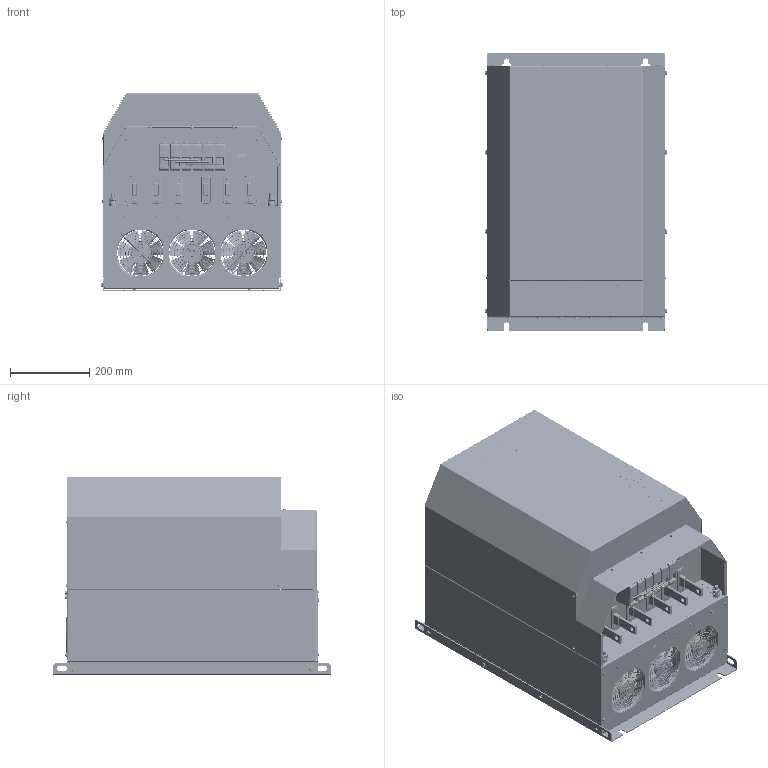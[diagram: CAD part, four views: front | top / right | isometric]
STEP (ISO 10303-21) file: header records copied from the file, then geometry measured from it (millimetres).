
FILE_DESCRIPTION(/* description */ (''),/* implementation_level */ '2;1');
FILE_NAME(/* name */ 'C:\Users\Erika.Jenzer\OneDrive - Schaffner EMV AG\Desktop\Neuer Ordner (2)\Plutus Reactors purchasing\CUSTOMER FS G IP20.stp',/* time_stamp */ '2023-12-07T08:57:05+01:00',/* author */ ('erika.jenzer'),/* organization */ (''),/* preprocessor_version */ 'ST-DEVELOPER v18.1',/* originating_system */ 'Autodesk Inventor 2020',/* authorisation */ '');
FILE_SCHEMA (('AUTOMOTIVE_DESIGN { 1 0 10303 214 3 1 1 }'));
Products named in the file (1): CUSTOMER FS G IP20
Bounding box: 459.59 x 700 x 498.15 mm (x, y, z)
Volume: 52324.6 mm3; surface area: 3841715.1 mm2
Topology: 53 solids, 57 shells, 10021 faces, 26130 edges, 16337 vertices
Faces by surface type: plane 4214, cylinder 2504, bspline 2082, cone 679, torus 456, sphere 86
Full cylindrical faces by diameter (mm): 2 x8, 2.8 x6, 3.2 x8, 3.3 x10, 3.4 x8, 3.5 x4, 4 x113, 4.1 x18, 4.3 x26, 4.881 x6, 5 x4, 5.2 x8, 5.4 x6, 5.5 x30, 6 x23, 6.5 x14, 7 x2, 7.9 x7, 8 x26, 8.3 x6, 8.7 x12, 9 x2, 9.188 x4, 9.9 x2, 10 x36, 10.5 x4, 11 x16, 11.05 x4, 12 x2, 12.7 x3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
Entity records: 416853 total; most frequent: CARTESIAN_POINT 170495, ORIENTED_EDGE 52040, DIRECTION 46856, EDGE_CURVE 26020, AXIS2_PLACEMENT_3D 17261, VERTEX_POINT 16391, LINE 12334, VECTOR 12334
